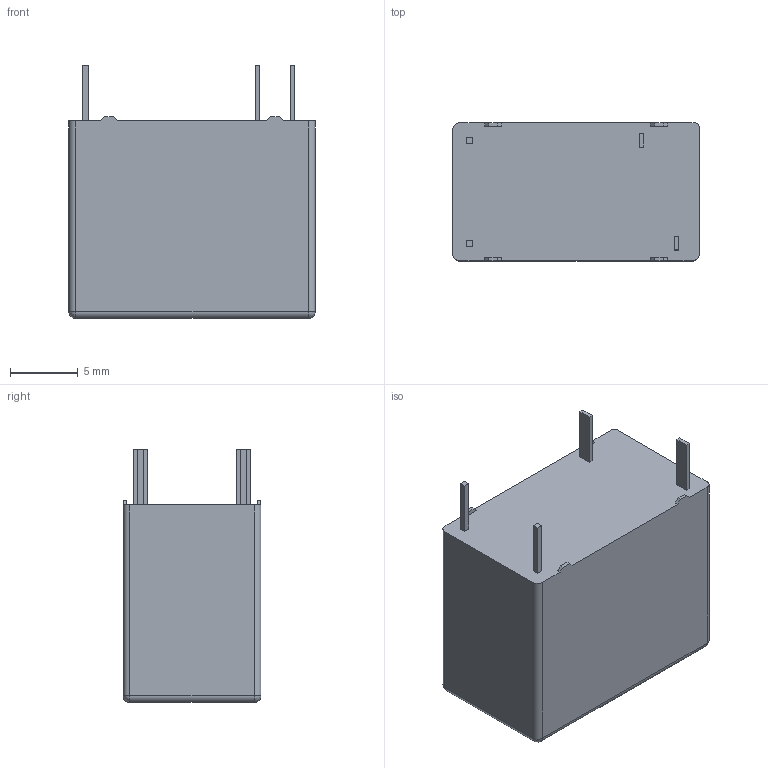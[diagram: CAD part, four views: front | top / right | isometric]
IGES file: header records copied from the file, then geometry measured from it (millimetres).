
Start section:  PTC IGES file: c-1721083-1-j-3d.igs
Global section: file name: c-1721083-1-j-3d.igs; native system: Creo Parametric by PTC Inc.; preprocessor: 2021072; author: workeradm; organization: Unknown; units: millimetre
Bounding box: 18.2 x 10.2 x 18.7 mm (x, y, z)
Surface area: 1215.4 mm2 (no closed solid volume)
Topology: 0 solids, 0 shells, 54 faces, 264 edges, 264 vertices
Faces by surface type: bspline 43, revolution 11
